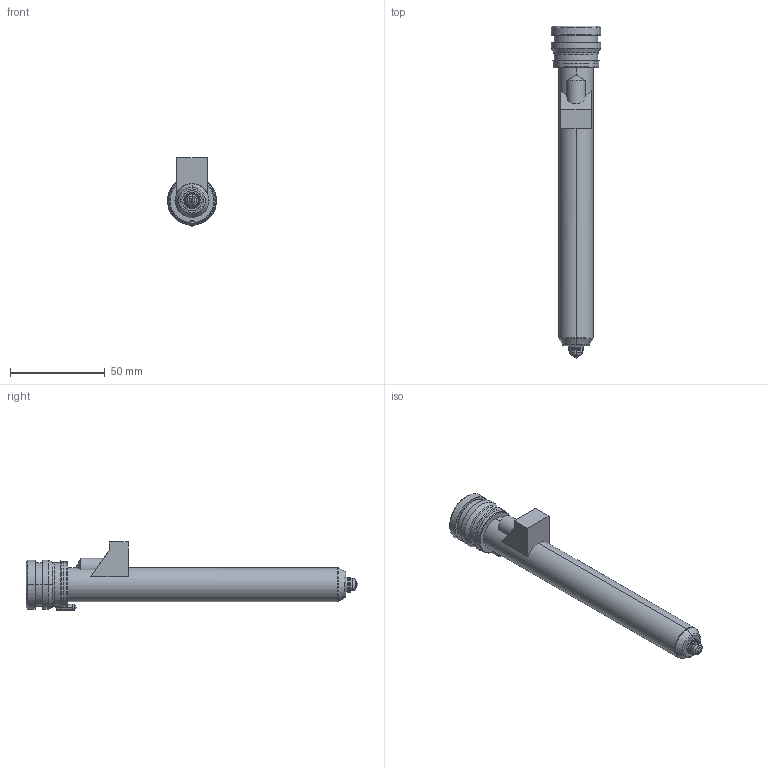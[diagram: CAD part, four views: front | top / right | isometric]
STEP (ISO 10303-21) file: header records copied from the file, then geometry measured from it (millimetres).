
FILE_DESCRIPTION((''),'2;1');
FILE_NAME('TH18157_5-M-1B15-PK-JG','2023-12-14T',('umhib'),('Thermoplay S.p.A.'),'PRO/ENGINEER BY PARAMETRIC TECHNOLOGY CORPORATION, 2017170','PRO/ENGINEER BY PARAMETRIC TECHNOLOGY CORPORATION, 2017170','');
FILE_SCHEMA(('CONFIG_CONTROL_DESIGN'));
Length unit declared in the file: millimetre
Products named in the file (1): TH18157_5-M-1B15-PK-JG
Bounding box: 26 x 175.5 x 36.1 mm (x, y, z)
Volume: 35109.9 mm3; surface area: 26525.7 mm2
Topology: 1 solids, 2 shells, 393 faces, 1003 edges, 615 vertices
Faces by surface type: cylinder 149, plane 87, cone 64, torus 58, bspline 22, sphere 11, extrusion 2
Entity records: 16871 total; most frequent: CARTESIAN_POINT 5188, DIRECTION 2010, ORIENTED_EDGE 1980, EDGE_CURVE 992, AXIS2_PLACEMENT_3D 810, VERTEX_POINT 615, CIRCLE 440, EDGE_LOOP 416
